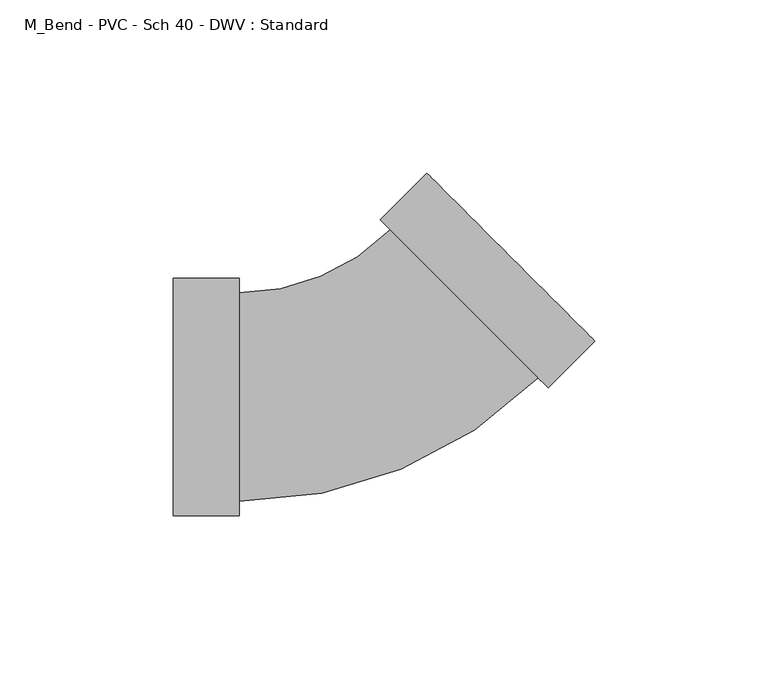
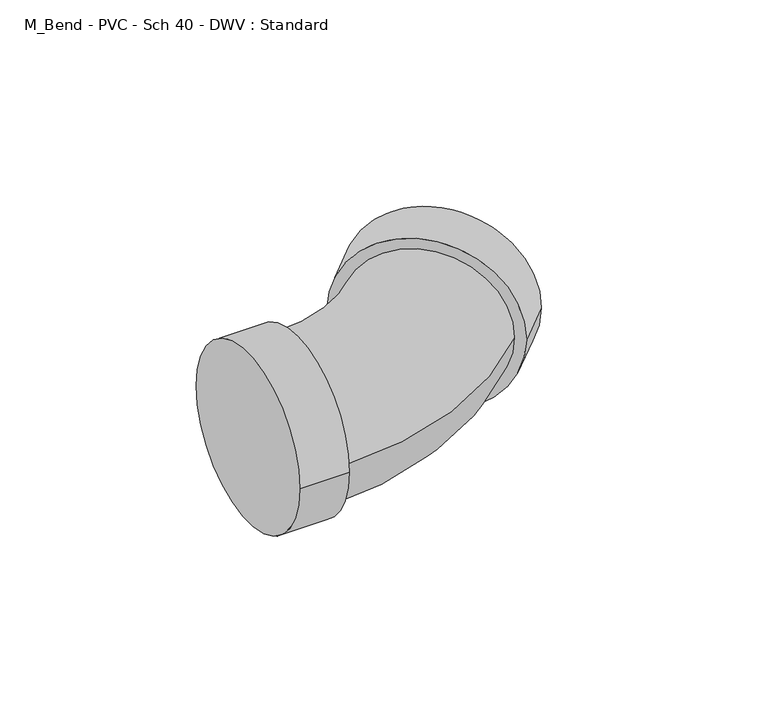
"""IFC4 building model written with IfcOpenShell, lengths in millimetres: pipe fitting geometry, M_Bend - PVC - Sch 40 - DWV : Standard."""

from ifc_helpers import new_model, si_unit, point, frame, origin, place, context, project, spatial, circle_curve, ellipse_curve, trimmed, source, transform, mapped, element, save
from ifc_brep_helpers import plane_surface, cylinder_surface, revolved_surface, advanced_brep


def m_bend_pvc_sch_40_dwv_standard_cad9babd(model_context):
    return source(origin(), model_context, "Body", "AdvancedBrep", [
        advanced_brep(
        [(-57.15, -34.3154, 0.0), (-57.15, 34.3154, 0.0), (-38.1, -34.3154, 0.0), (-38.1, 34.3154, 0.0), (-38.1, -30.1625, 0.0), (-38.1, 30.1625, 0.0), (5.6126601, 48.2688767, 0.0), (48.2688767, 5.6126601, 0.0), (51.2054204, 2.6761163, 0.0), (2.6761163, 51.2054204, 0.0), (64.6758046, 16.1465005, 0.0), (16.1465005, 64.6758046, 0.0)],
        [
            (0, 1, circle_curve(frame((-57.15, 0.0, 0.0), z_axis=(-1.0, 0.0, 0.0), x_axis=(0.0, 1.0, 0.0)), 34.3154)),
            (1, 0, circle_curve(frame((-57.15, 0.0, 0.0), z_axis=(-1.0, 0.0, 0.0), x_axis=(0.0, 1.0, 0.0)), 34.3154)),
            (2, 3, circle_curve(frame((-38.1, 0.0, 0.0), z_axis=(1.0, 0.0, 0.0), x_axis=(0.0, 1.0, 0.0)), 34.3154)),
            (3, 2, circle_curve(frame((-38.1, 0.0, 0.0), z_axis=(1.0, 0.0, 0.0), x_axis=(0.0, 1.0, 0.0)), 34.3154)),
            (4, 5, circle_curve(frame((-38.1, 0.0, 0.0), z_axis=(-1.0, 0.0, 0.0), x_axis=(0.0, 1.0, 0.0)), 30.1625)),
            (5, 4, circle_curve(frame((-38.1, 0.0, 0.0), z_axis=(-1.0, 0.0, 0.0), x_axis=(0.0, 1.0, 0.0)), 30.1625)),
            (0, 2),
            (3, 1),
            (6, 5, circle_curve(frame((-38.1, 91.9815367, 0.0), z_axis=(0.0, 0.0, -1.0), x_axis=(0.0, -1.0, 0.0)), 61.8190367)),
            (4, 7, circle_curve(frame((-38.1, 91.9815367, 0.0), z_axis=(0.0, 0.0, 1.0), x_axis=(0.0, -1.0, 0.0)), 122.1440367)),
            (7, 6, circle_curve(frame((26.9407684, 26.9407684, 0.0), z_axis=(-0.7071067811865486, -0.7071067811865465, 0.0), x_axis=(-0.7071067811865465, 0.7071067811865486, 0.0)), 30.1625)),
            (6, 7, circle_curve(frame((26.9407684, 26.9407684, 0.0), z_axis=(-0.7071067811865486, -0.7071067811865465, 0.0), x_axis=(-0.7071067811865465, 0.7071067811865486, 0.0)), 30.1625)),
            (8, 9, circle_curve(frame((26.9407684, 26.9407684, 0.0), z_axis=(-0.7071067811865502, -0.7071067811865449, 0.0), x_axis=(-0.7071067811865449, 0.7071067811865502, 0.0)), 34.3154)),
            (9, 8, circle_curve(frame((26.9407684, 26.9407684, 0.0), z_axis=(-0.7071067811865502, -0.7071067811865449, 0.0), x_axis=(-0.7071067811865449, 0.7071067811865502, 0.0)), 34.3154)),
            (10, 11, circle_curve(frame((40.4111525, 40.4111525, 0.0), z_axis=(0.7071067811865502, 0.7071067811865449, 0.0), x_axis=(-0.7071067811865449, 0.7071067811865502, 0.0)), 34.3154)),
            (11, 10, circle_curve(frame((40.4111525, 40.4111525, 0.0), z_axis=(0.7071067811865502, 0.7071067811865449, 0.0), x_axis=(-0.7071067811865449, 0.7071067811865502, 0.0)), 34.3154)),
            (8, 10),
            (11, 9),
        ],
        [
            plane_surface(frame((-57.15, 0.0, 0.0), z_axis=(-1.0, 0.0, 0.0), x_axis=(0.0, 0.0, 1.0))),
            plane_surface(frame((-38.1, 0.0, 0.0), z_axis=(1.0, 0.0, 0.0), x_axis=(0.0, 0.0, 1.0))),
            cylinder_surface(frame((-57.15, 0.0, 0.0), z_axis=(-1.0, 0.0, 0.0), x_axis=(0.0, 1.0, 0.0)), 34.3154),
            revolved_surface(trimmed(ellipse_curve(frame((-38.1, 0.0, 0.0), z_axis=(-1.0, 0.0, 0.0), x_axis=(0.0, 1.0, 0.0)), 30.1625, 30.1625), [point((-38.1, -30.1625, 0.0))], [point((-38.1, 30.1625, 0.0))], True, "CARTESIAN"), (-38.1, 91.9815367, 0.0), (0.0, 0.0, 1.0)),
            revolved_surface(trimmed(ellipse_curve(frame((-38.1, 0.0, 0.0), z_axis=(-1.0, 0.0, 0.0), x_axis=(0.0, 1.0, 0.0)), 30.1625, 30.1625), [point((-38.1, 30.1625, 0.0))], [point((-38.1, -30.1625, 0.0))], True, "CARTESIAN"), (-38.1, 91.9815367, 0.0), (0.0, 0.0, 1.0)),
            plane_surface(frame((26.9407684, 26.9407684, 0.0), z_axis=(-0.7071067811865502, -0.7071067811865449, 0.0), x_axis=(0.0, 0.0, 1.0))),
            plane_surface(frame((40.4111525, 40.4111525, 0.0), z_axis=(0.7071067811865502, 0.7071067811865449, 0.0), x_axis=(0.0, 0.0, 1.0))),
            cylinder_surface(frame((26.9407684, 26.9407684, 0.0), z_axis=(-0.7071067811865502, -0.7071067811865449, 0.0), x_axis=(-0.7071067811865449, 0.7071067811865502, 0.0)), 34.3154),
        ],
        [
            (0, [[1, 2]]),
            (1, [[3, 4], [5, 6]]),
            (2, [[-1, 7, -4, 8]]),
            (2, [[-2, -8, -3, -7]]),
            (3, [[9, -5, 10, 11]]),
            (4, [[-9, 12, -10, -6]]),
            (5, [[13, 14], [-11, -12]]),
            (6, [[15, 16]]),
            (7, [[-13, 17, -16, 18]]),
            (7, [[-14, -18, -15, -17]]),
        ],
    ),
    ])


if __name__ == "__main__":
    model = new_model("IFC4")
    model_context = context("Model", 3, world=origin())
    ifc_project = project(units=[si_unit("LENGTHUNIT", "METRE", prefix="MILLI")], contexts=[model_context])
    site = spatial("IfcSite", under=ifc_project)
    building = spatial("IfcBuilding", under=site)
    placement = place(None, origin())
    m_bend_pvc_sch_40_dwv_standard_shape = m_bend_pvc_sch_40_dwv_standard_cad9babd(model_context)
    element("IfcPipeFitting", 1, ObjectType="M_Bend - PVC - Sch 40 - DWV : Standard", at=placement, inside=building, context=model_context, shape_type="MappedRepresentation", body=[
        mapped(m_bend_pvc_sch_40_dwv_standard_shape, transform((0.0, 0.0, 0.0), x_axis=(1.0, 0.0, 0.0), y_axis=(0.0, 1.0, 0.0), z_axis=(0.0, 0.0, 1.0))),
    ])
    save(model, "model.ifc")
